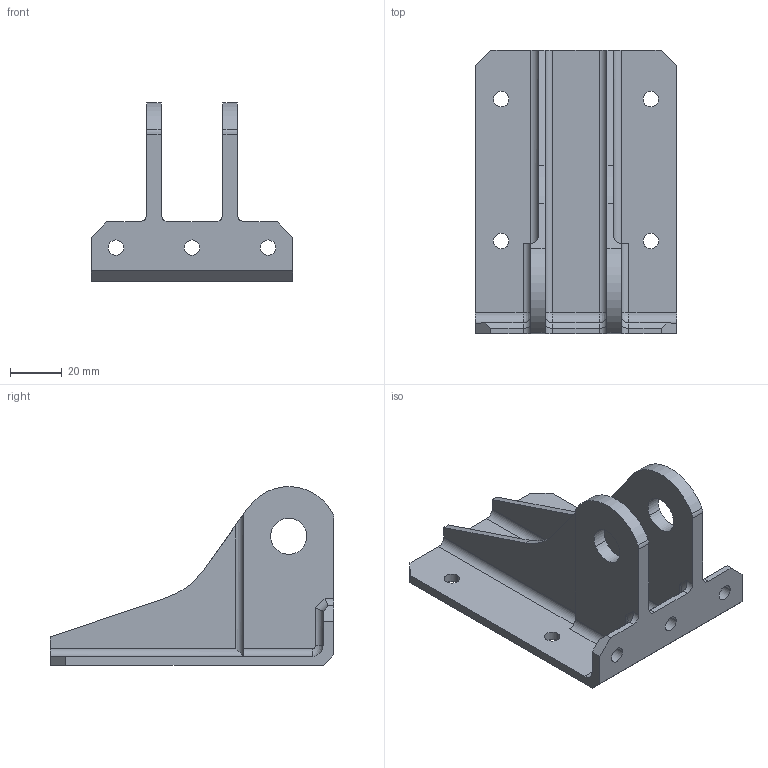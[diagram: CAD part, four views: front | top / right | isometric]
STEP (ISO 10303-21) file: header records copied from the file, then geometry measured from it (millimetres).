
FILE_DESCRIPTION(('CATIA V5 STEP Exchange'),'2;1');
FILE_NAME('C:\Users\laurent\Downloads\BR941_Prof_Cde.stp','2016-09-21T06:21:27+00:00',('none'),('none'),'CATIA Version 5 Release 21 GA (IN-10)','CATIA V5 STEP AP203','none');
FILE_SCHEMA(('CONFIG_CONTROL_DESIGN'));
Length unit declared in the file: millimetre
Products named in the file (1): BR941_Prof_Cde
Bounding box: 78 x 110 x 69.2 mm (x, y, z)
Volume: 66331.1 mm3; surface area: 36468.5 mm2
Topology: 1 solids, 1 shells, 85 faces, 229 edges, 147 vertices
Faces by surface type: cylinder 47, plane 34, revolution 4
Entity records: 2637 total; most frequent: CARTESIAN_POINT 562, ORIENTED_EDGE 458, DIRECTION 331, EDGE_CURVE 229, VERTEX_POINT 146, VECTOR 137, LINE 137, AXIS2_PLACEMENT_3D 134
